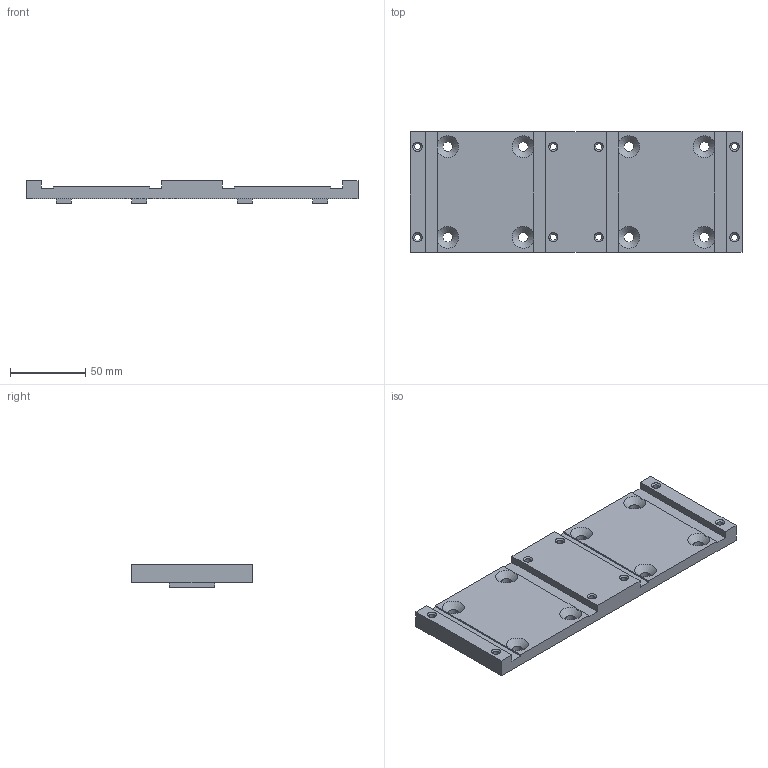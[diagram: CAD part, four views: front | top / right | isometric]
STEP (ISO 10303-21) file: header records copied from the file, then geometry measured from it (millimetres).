
FILE_DESCRIPTION(('STEP AP203'), '1');
FILE_NAME('ÒÏÏÔ1801.01.30.00.001 - Ïëîùàäêà ïðèâîäà', '', ('UNSPECIFIED'), ('UNSPECIFIED'), 'C3D Converter', 'C3D Toolkit', '');
FILE_SCHEMA(('CONFIG_CONTROL_DESIGN'));
Length unit declared in the file: millimetre
Products named in the file (1): ТППФ1801.01.30.00.001
Bounding box: 220 x 80 x 15 mm (x, y, z)
Volume: 155724.9 mm3; surface area: 45470.2 mm2
Topology: 1 solids, 1 shells, 74 faces, 212 edges, 136 vertices
Faces by surface type: plane 42, cylinder 16, cone 16
Full cylindrical faces by diameter (mm): 4.134 x8, 6.5 x8
Entity records: 3268 total; most frequent: CARTESIAN_POINT 747, DIRECTION 370, ORIENTED_EDGE 360, EDGE_CURVE 180, VERTEX_POINT 136, EDGE_LOOP 134, AXIS2_PLACEMENT_3D 127, LINE 116
